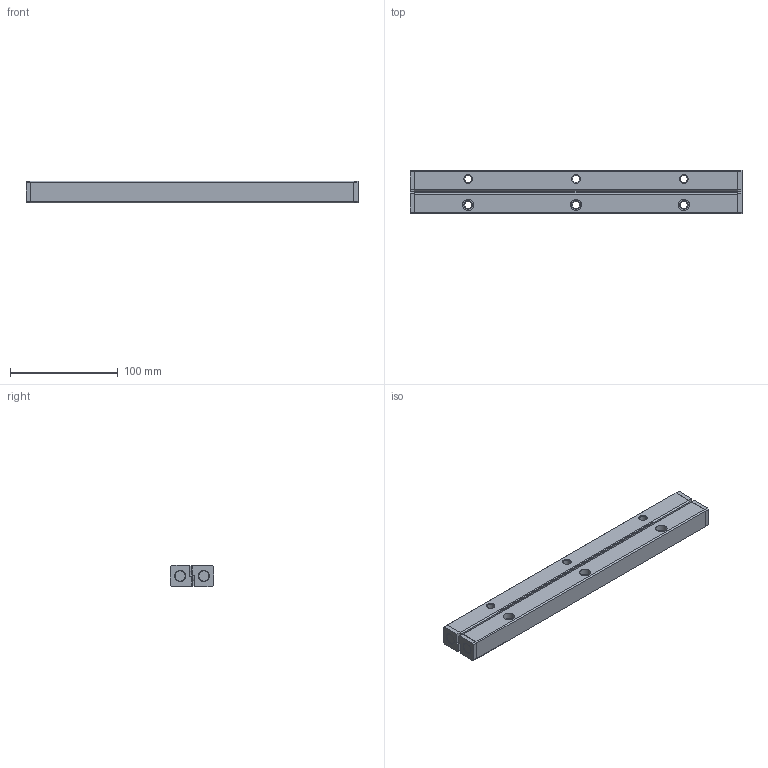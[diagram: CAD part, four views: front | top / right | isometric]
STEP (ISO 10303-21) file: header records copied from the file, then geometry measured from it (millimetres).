
FILE_DESCRIPTION(/* description */ ('Unknown'),/* implementation_level */ '2;1');
FILE_NAME(/* name */ 'VR9-300x15Z',/* time_stamp */ '2025-06-12T09:18:44+08:00',/* author */ ('Unknown'),/* organization */ ('Unknown'),/* preprocessor_version */ 'ST-DEVELOPER v18.102',/* originating_system */ 'Solid Edge',/* authorisation */ 'Unknown');
FILE_SCHEMA (('AUTOMOTIVE_DESIGN {1 0 10303 214 3 1 1}'));
Length unit declared in the file: millimetre
Products named in the file (3): VR9-300x15Z; VR9-300_15Z Roller guide; VR9-300_15Z Roller cage
Assembly tree (3 placements, depth 2):
  VR9-300x15Z
    VR9-300_15Z Roller guide  x2
    VR9-300_15Z Roller cage
Bounding box: 308 x 40 x 20 mm (x, y, z)
Volume: 220310.9 mm3; surface area: 64888 mm2
Topology: 3 solids, 3 shells, 283 faces, 751 edges, 484 vertices
Faces by surface type: plane 210, cone 46, cylinder 27
Full cylindrical faces by diameter (mm): 6.8 x6, 9 x15, 10.5 x6
Entity records: 7056 total; most frequent: CARTESIAN_POINT 1194, DIRECTION 1169, ORIENTED_EDGE 1122, EDGE_CURVE 561, LINE 419, VECTOR 419, VERTEX_POINT 400, AXIS2_PLACEMENT_3D 375
